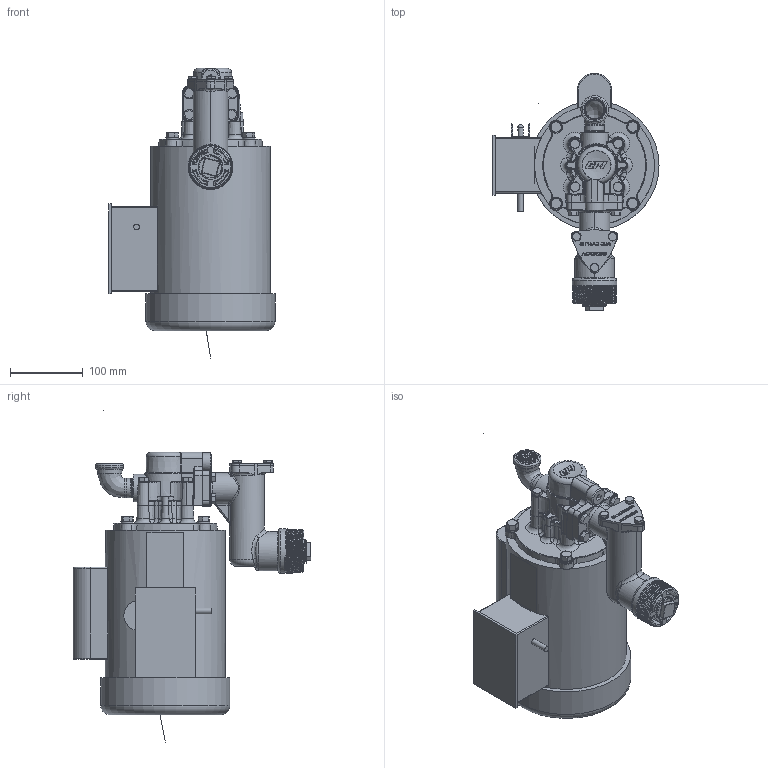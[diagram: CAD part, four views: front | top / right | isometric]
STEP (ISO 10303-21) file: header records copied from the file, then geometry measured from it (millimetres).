
FILE_DESCRIPTION(/* description */ (''),/* implementation_level */ '2;1');
FILE_NAME(/* name */ 'C:\Vault Projects\GPI Eng\New Projects\DHarris\Website model updates\STEP\L5132.stp',/* time_stamp */ '2022-07-18T15:29:35-05:00',/* author */ ('gdanhar'),/* organization */ (''),/* preprocessor_version */ 'ST-DEVELOPER v18.1',/* originating_system */ 'Autodesk Inventor 2022',/* authorisation */ '');
FILE_SCHEMA (('AUTOMOTIVE_DESIGN { 1 0 10303 214 3 1 1 }'));
Products named in the file (1): L5132
Bounding box: 228.81 x 327.49 x 457.5 mm (x, y, z)
Volume: 7523783.1 mm3; surface area: 373543.3 mm2
Topology: 3 solids, 10 shells, 1775 faces, 4498 edges, 2751 vertices
Faces by surface type: plane 753, bspline 417, cylinder 214, cone 176, torus 155, sphere 60
Full cylindrical faces by diameter (mm): 0.001 x1, 4.978 x3, 6.35 x3, 7.874 x1, 7.938 x4, 9.512 x4, 9.525 x4, 11.125 x3, 11.989 x3, 12.7 x4, 15.494 x4, 18.847 x1, 25.4 x1, 26.67 x1, 28.575 x1, 38.1 x2, 114.3 x1, 165.1 x1, 177.8 x1
Entity records: 79046 total; most frequent: CARTESIAN_POINT 37771, ORIENTED_EDGE 8834, DIRECTION 7178, EDGE_CURVE 4417, VERTEX_POINT 2749, AXIS2_PLACEMENT_3D 2588, LINE 2002, VECTOR 2002
